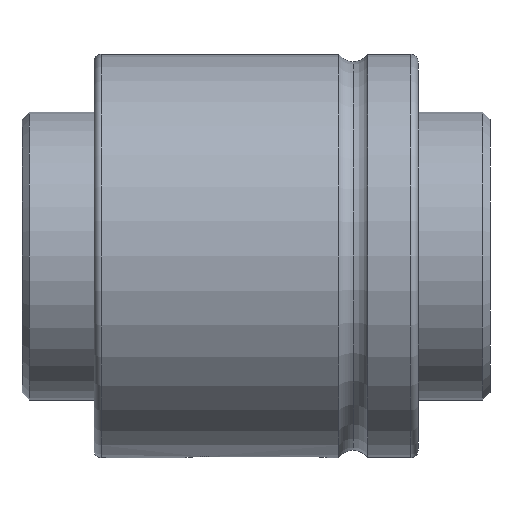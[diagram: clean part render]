
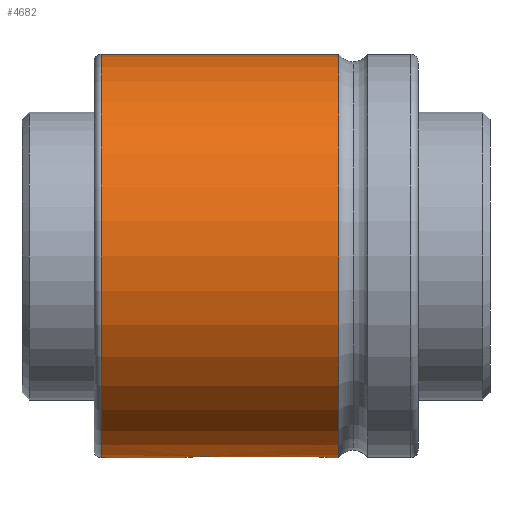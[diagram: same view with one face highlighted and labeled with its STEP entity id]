
A CAD part, front view. The second image highlights one B-rep face of the part: STEP entity #4682.
In plain terms, the highlighted cylindrical face has radius 28 mm (diameter 56 mm), a partial arc.
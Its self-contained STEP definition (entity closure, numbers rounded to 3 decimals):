
#93 = CARTESIAN_POINT ( 'NONE',  ( 12.5, -0.165, -28. ) ) ;
#106 = DIRECTION ( 'NONE',  ( -1., 0., 0. ) ) ;
#176 = CARTESIAN_POINT ( 'NONE',  ( 30.328, -2.484, -27.89 ) ) ;
#182 = DIRECTION ( 'NONE',  ( 1., 0., 0. ) ) ;
#271 = ORIENTED_EDGE ( 'NONE', *, *, #5004, .T. ) ;
#346 = CIRCLE ( 'NONE', #537, 28. ) ;
#360 = DIRECTION ( 'NONE',  ( -1., 0., 0. ) ) ;
#537 = AXIS2_PLACEMENT_3D ( 'NONE', #6346, #6324, #3385 ) ;
#635 = EDGE_CURVE ( 'NONE', #2323, #1815, #3907, .T. ) ;
#638 = ORIENTED_EDGE ( 'NONE', *, *, #2127, .F. ) ;
#688 = DIRECTION ( 'NONE',  ( 0., 0., -1. ) ) ;
#813 = FACE_OUTER_BOUND ( 'NONE', #4840, .T. ) ;
#1009 = ORIENTED_EDGE ( 'NONE', *, *, #5702, .T. ) ;
#1070 = CARTESIAN_POINT ( 'NONE',  ( 12.516, -0.328, -27.999 ) ) ;
#1128 = CARTESIAN_POINT ( 'NONE',  ( 13.011, -1.523, -27.959 ) ) ;
#1140 = CARTESIAN_POINT ( 'NONE',  ( 31.108, -2.247, -27.91 ) ) ;
#1143 = EDGE_CURVE ( 'NONE', #2834, #6221, #2820, .T. ) ;
#1197 = VERTEX_POINT ( 'NONE', #4718 ) ;
#1386 = VECTOR ( 'NONE', #1680, 1000. ) ;
#1525 = AXIS2_PLACEMENT_3D ( 'NONE', #2066, #106, #5017 ) ;
#1554 = CARTESIAN_POINT ( 'NONE',  ( 14.67, -2.5, -27.888 ) ) ;
#1567 = CARTESIAN_POINT ( 'NONE',  ( 30.165, -2.5, -27.888 ) ) ;
#1630 = CARTESIAN_POINT ( 'NONE',  ( 31.986, -1.528, -27.959 ) ) ;
#1632 = ORIENTED_EDGE ( 'NONE', *, *, #635, .F. ) ;
#1680 = DIRECTION ( 'NONE',  ( -1., 0., 0. ) ) ;
#1711 = CARTESIAN_POINT ( 'NONE',  ( 45., 0., -28. ) ) ;
#1815 = VERTEX_POINT ( 'NONE', #2720 ) ;
#1908 = ORIENTED_EDGE ( 'NONE', *, *, #1143, .F. ) ;
#1947 = CARTESIAN_POINT ( 'NONE',  ( 34., 0., -28. ) ) ;
#2052 = CARTESIAN_POINT ( 'NONE',  ( 31.252, -2.17, -27.916 ) ) ;
#2066 = CARTESIAN_POINT ( 'NONE',  ( 45., 0., 0. ) ) ;
#2081 = CARTESIAN_POINT ( 'NONE',  ( 13.347, -1.882, -27.937 ) ) ;
#2127 = EDGE_CURVE ( 'NONE', #6221, #1197, #5501, .T. ) ;
#2133 = DIRECTION ( 'NONE',  ( 1., 0., 0. ) ) ;
#2161 = B_SPLINE_CURVE_WITH_KNOTS ( 'NONE', 3,
 ( #3577, #1567, #176, #4033, #4997, #1140, #2052, #5541, #5477, #5018, #1630, #2547, #2606, #6054, #3087, #3595 ),
 .UNSPECIFIED., .F., .F.,
 ( 4, 2, 2, 2, 2, 2, 2, 4 ),
 ( -0.004, -0.003, -0.003, -0.002, -0.002, -0.001, -0.001, 0. ),
 .UNSPECIFIED. ) ;
#2166 = CARTESIAN_POINT ( 'NONE',  ( 45., 0., -28. ) ) ;
#2251 = EDGE_CURVE ( 'NONE', #2834, #5367, #3031, .T. ) ;
#2261 = CARTESIAN_POINT ( 'NONE',  ( 45., 0., 28. ) ) ;
#2323 = VERTEX_POINT ( 'NONE', #2409 ) ;
#2409 = CARTESIAN_POINT ( 'NONE',  ( 12.5, 0., -28. ) ) ;
#2459 = CARTESIAN_POINT ( 'NONE',  ( 15., -2.5, -27.888 ) ) ;
#2530 = CARTESIAN_POINT ( 'NONE',  ( 12.83, -1.252, -27.972 ) ) ;
#2547 = CARTESIAN_POINT ( 'NONE',  ( 32.169, -1.255, -27.972 ) ) ;
#2606 = CARTESIAN_POINT ( 'NONE',  ( 32.246, -1.109, -27.978 ) ) ;
#2720 = CARTESIAN_POINT ( 'NONE',  ( 1., 0., -28. ) ) ;
#2820 = CIRCLE ( 'NONE', #5929, 28. ) ;
#2833 = VERTEX_POINT ( 'NONE', #2459 ) ;
#2834 = VERTEX_POINT ( 'NONE', #3551 ) ;
#3031 = LINE ( 'NONE', #2261, #5813 ) ;
#3087 = CARTESIAN_POINT ( 'NONE',  ( 32.5, -0.33, -28. ) ) ;
#3094 = CARTESIAN_POINT ( 'NONE',  ( 45., -2.5, -27.888 ) ) ;
#3385 = DIRECTION ( 'NONE',  ( 0., 0., -1. ) ) ;
#3541 = CARTESIAN_POINT ( 'NONE',  ( 15., -2.5, -27.888 ) ) ;
#3551 = CARTESIAN_POINT ( 'NONE',  ( 34., 0., 28. ) ) ;
#3562 = CYLINDRICAL_SURFACE ( 'NONE', #1525, 28. ) ;
#3570 = VECTOR ( 'NONE', #182, 1000. ) ;
#3577 = CARTESIAN_POINT ( 'NONE',  ( 30., -2.5, -27.888 ) ) ;
#3595 = CARTESIAN_POINT ( 'NONE',  ( 32.5, 0., -28. ) ) ;
#3817 = B_SPLINE_CURVE_WITH_KNOTS ( 'NONE', 3,
 ( #5026, #93, #1070, #5992, #4062, #4014, #2530, #1128, #3970, #2081, #4041, #4560, #4471, #5046, #1554, #3541 ),
 .UNSPECIFIED., .F., .F.,
 ( 4, 2, 2, 2, 2, 2, 2, 4 ),
 ( 0.004, 0.004, 0.005, 0.005, 0.006, 0.006, 0.007, 0.008 ),
 .UNSPECIFIED. ) ;
#3907 = LINE ( 'NONE', #2166, #1386 ) ;
#3970 = CARTESIAN_POINT ( 'NONE',  ( 13.116, -1.652, -27.951 ) ) ;
#3972 = VECTOR ( 'NONE', #4671, 1000. ) ;
#4014 = CARTESIAN_POINT ( 'NONE',  ( 12.753, -1.108, -27.978 ) ) ;
#4015 = ORIENTED_EDGE ( 'NONE', *, *, #6068, .T. ) ;
#4033 = CARTESIAN_POINT ( 'NONE',  ( 30.647, -2.42, -27.895 ) ) ;
#4041 = CARTESIAN_POINT ( 'NONE',  ( 13.472, -1.986, -27.93 ) ) ;
#4062 = CARTESIAN_POINT ( 'NONE',  ( 12.628, -0.806, -27.989 ) ) ;
#4252 = EDGE_CURVE ( 'NONE', #2833, #4337, #4805, .T. ) ;
#4337 = VERTEX_POINT ( 'NONE', #5191 ) ;
#4364 = CARTESIAN_POINT ( 'NONE',  ( 1., 0., 28. ) ) ;
#4471 = CARTESIAN_POINT ( 'NONE',  ( 13.891, -2.246, -27.91 ) ) ;
#4560 = CARTESIAN_POINT ( 'NONE',  ( 13.745, -2.169, -27.916 ) ) ;
#4637 = ORIENTED_EDGE ( 'NONE', *, *, #2251, .T. ) ;
#4671 = DIRECTION ( 'NONE',  ( -1., 0., 0. ) ) ;
#4682 = ADVANCED_FACE ( 'NONE', ( #813 ), #3562, .T. ) ;
#4718 = CARTESIAN_POINT ( 'NONE',  ( 32.5, 0., -28. ) ) ;
#4805 = LINE ( 'NONE', #3094, #3570 ) ;
#4840 = EDGE_LOOP ( 'NONE', ( #638, #1908, #4637, #271, #1632, #1009, #5080, #4015 ) ) ;
#4997 = CARTESIAN_POINT ( 'NONE',  ( 30.806, -2.372, -27.899 ) ) ;
#5004 = EDGE_CURVE ( 'NONE', #5367, #1815, #346, .T. ) ;
#5017 = DIRECTION ( 'NONE',  ( 0., 0., 1. ) ) ;
#5018 = CARTESIAN_POINT ( 'NONE',  ( 31.882, -1.653, -27.951 ) ) ;
#5026 = CARTESIAN_POINT ( 'NONE',  ( 12.5, 0., -28. ) ) ;
#5046 = CARTESIAN_POINT ( 'NONE',  ( 14.341, -2.434, -27.894 ) ) ;
#5080 = ORIENTED_EDGE ( 'NONE', *, *, #4252, .T. ) ;
#5191 = CARTESIAN_POINT ( 'NONE',  ( 30., -2.5, -27.888 ) ) ;
#5367 = VERTEX_POINT ( 'NONE', #4364 ) ;
#5477 = CARTESIAN_POINT ( 'NONE',  ( 31.652, -1.884, -27.937 ) ) ;
#5501 = LINE ( 'NONE', #1711, #3972 ) ;
#5541 = CARTESIAN_POINT ( 'NONE',  ( 31.523, -1.989, -27.929 ) ) ;
#5654 = CARTESIAN_POINT ( 'NONE',  ( 34., 0., 0. ) ) ;
#5702 = EDGE_CURVE ( 'NONE', #2323, #2833, #3817, .T. ) ;
#5813 = VECTOR ( 'NONE', #360, 1000. ) ;
#5929 = AXIS2_PLACEMENT_3D ( 'NONE', #5654, #2133, #688 ) ;
#5992 = CARTESIAN_POINT ( 'NONE',  ( 12.58, -0.647, -27.993 ) ) ;
#6054 = CARTESIAN_POINT ( 'NONE',  ( 32.434, -0.659, -27.994 ) ) ;
#6068 = EDGE_CURVE ( 'NONE', #4337, #1197, #2161, .T. ) ;
#6221 = VERTEX_POINT ( 'NONE', #1947 ) ;
#6324 = DIRECTION ( 'NONE',  ( 1., 0., 0. ) ) ;
#6346 = CARTESIAN_POINT ( 'NONE',  ( 1., 0., 0. ) ) ;
